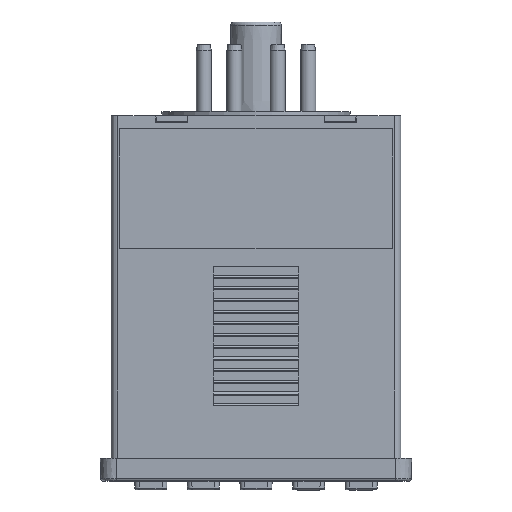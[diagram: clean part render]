
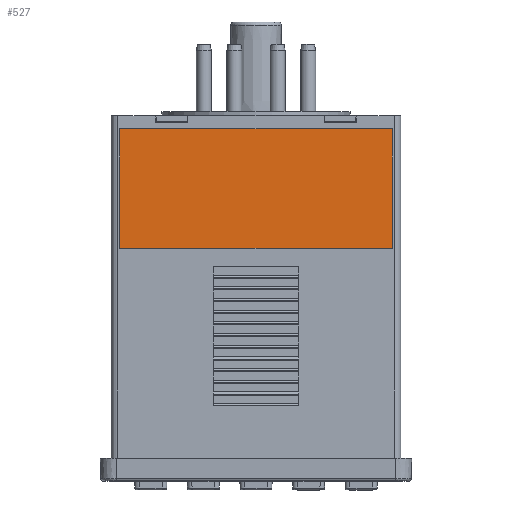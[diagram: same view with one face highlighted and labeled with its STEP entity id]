
A CAD part, top view. The second image highlights one B-rep face of the part: STEP entity #527.
In plain terms, the highlighted planar face has unit normal (0, 0, 1) as drawn and (0, 1, 0) by its records, which use the part's own axes.
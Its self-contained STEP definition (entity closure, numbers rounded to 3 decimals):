
#527=ADVANCED_FACE('',(#1394),#1395,.F.);
#1394=FACE_OUTER_BOUND('',#3433,.T.);
#1395=PLANE('',#3434);
#3433=EDGE_LOOP('',(#7189,#7190,#7191,#7192));
#3434=AXIS2_PLACEMENT_3D('',#7193,#7194,#7195);
#7189=ORIENTED_EDGE('',*,*,#12938,.F.);
#7190=ORIENTED_EDGE('',*,*,#12939,.F.);
#7191=ORIENTED_EDGE('',*,*,#12940,.F.);
#7192=ORIENTED_EDGE('',*,*,#12941,.F.);
#7193=CARTESIAN_POINT('',(3.308,33.607,-2.3));
#7194=DIRECTION('',(0.0,-1.0,0.0));
#7195=DIRECTION('',(0.0,0.0,-1.0));
#12938=EDGE_CURVE('',#14980,#14981,#14982,.T.);
#12939=EDGE_CURVE('',#14983,#14980,#14984,.T.);
#12940=EDGE_CURVE('',#14985,#14983,#14986,.T.);
#12941=EDGE_CURVE('',#14981,#14985,#14987,.T.);
#14980=VERTEX_POINT('',#18326);
#14981=VERTEX_POINT('',#18327);
#14982=LINE('',#18328,#18329);
#14983=VERTEX_POINT('',#18330);
#14984=LINE('',#18331,#18332);
#14985=VERTEX_POINT('',#18333);
#14986=LINE('',#18334,#18335);
#14987=LINE('',#18336,#18337);
#18326=CARTESIAN_POINT('',(-39.192,33.607,-52.5));
#18327=CARTESIAN_POINT('',(2.808,33.607,-52.5));
#18328=CARTESIAN_POINT('',(3.308,33.607,-52.5));
#18329=VECTOR('',#24470,1.0);
#18330=CARTESIAN_POINT('',(-39.192,33.607,-34.1));
#18331=CARTESIAN_POINT('',(-39.192,33.607,-34.1));
#18332=VECTOR('',#24471,1.0);
#18333=CARTESIAN_POINT('',(2.808,33.607,-34.1));
#18334=CARTESIAN_POINT('',(2.808,33.607,-34.1));
#18335=VECTOR('',#24472,1.0);
#18336=CARTESIAN_POINT('',(2.808,33.607,-52.5));
#18337=VECTOR('',#24473,1.0);
#24470=DIRECTION('',(1.0,0.0,0.0));
#24471=DIRECTION('',(0.,0.0,-1.0));
#24472=DIRECTION('',(-1.0,0.0,0.0));
#24473=DIRECTION('',(0.0,0.0,1.0));
